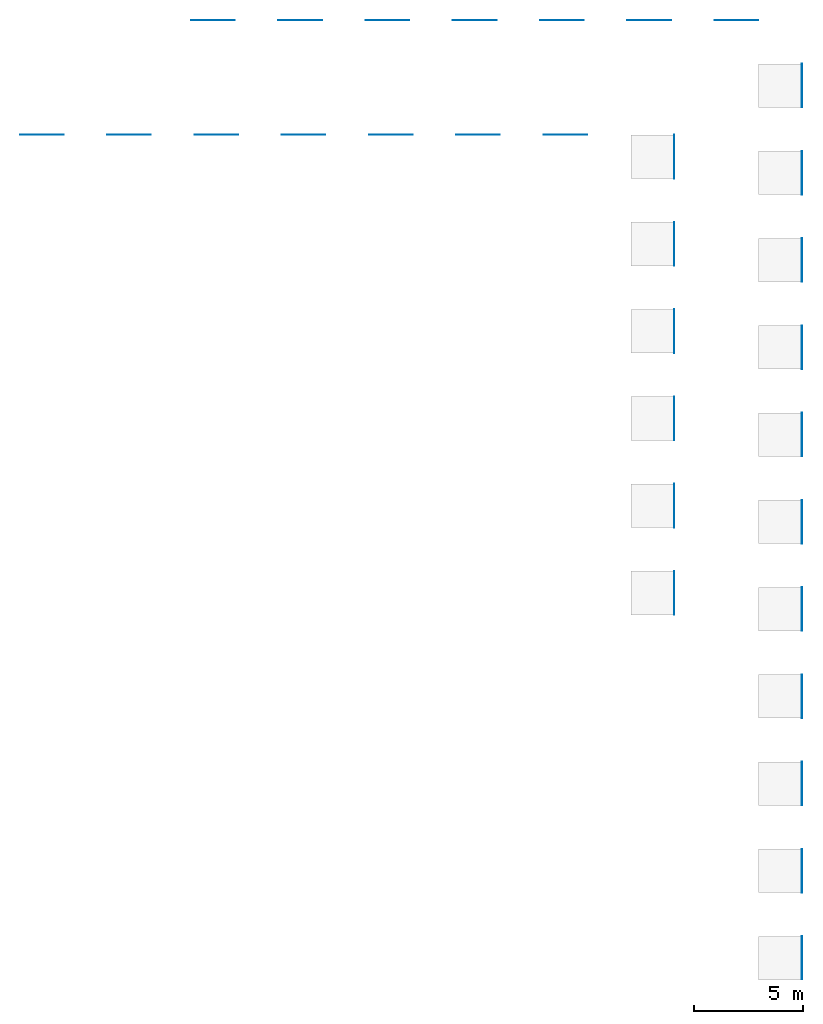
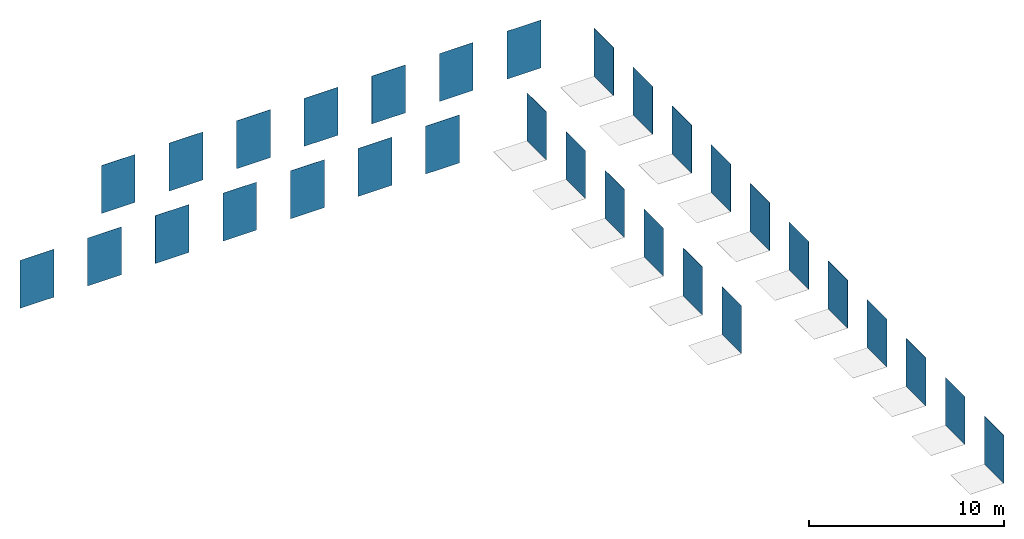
# One storey, part 1 of 2: 31 walls.
"""IFC2X3 building model written with IfcOpenShell, lengths in millimetres."""

from ifc_helpers import new_model, entity, si_unit, converted_unit, derived_unit, direction, frame, frame_2d, origin, place, context, subcontext, project, spatial, rectangle, extrude, material, layer, layer_set, layer_usage, type_object, element, save


model = new_model("IFC2X3")

# Units and contexts
model_context = context("Model", 3, precision=0.01, world=origin(), true_north=direction((6.12303176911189e-17, 1.0)))
body_context = subcontext(model_context, "Body", "Model", "MODEL_VIEW")
ifc_project = project(units=[si_unit("LENGTHUNIT", "METRE", prefix="MILLI"), si_unit("AREAUNIT", "SQUARE_METRE"), si_unit("VOLUMEUNIT", "CUBIC_METRE"), converted_unit("PLANEANGLEUNIT", "DEGREE", entity("IfcRatioMeasure", 0.0174532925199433), si_unit("PLANEANGLEUNIT", "RADIAN"), dimensions=[0, 0, 0, 0, 0, 0, 0]), si_unit("MASSUNIT", "GRAM", prefix="KILO"), derived_unit("MASSDENSITYUNIT", [(si_unit("MASSUNIT", "GRAM", prefix="KILO"), 1), (si_unit("LENGTHUNIT", "METRE"), -3)]), si_unit("TIMEUNIT", "SECOND"), si_unit("FREQUENCYUNIT", "HERTZ"), si_unit("THERMODYNAMICTEMPERATUREUNIT", "DEGREE_CELSIUS"), derived_unit("THERMALTRANSMITTANCEUNIT", [(si_unit("MASSUNIT", "GRAM", prefix="KILO"), 1), (si_unit("THERMODYNAMICTEMPERATUREUNIT", "KELVIN"), -1), (si_unit("TIMEUNIT", "SECOND"), -3)]), derived_unit("VOLUMETRICFLOWRATEUNIT", [(si_unit("LENGTHUNIT", "METRE"), 3), (si_unit("TIMEUNIT", "SECOND"), -1)]), si_unit("ELECTRICCURRENTUNIT", "AMPERE"), si_unit("ELECTRICVOLTAGEUNIT", "VOLT"), si_unit("POWERUNIT", "WATT"), si_unit("FORCEUNIT", "NEWTON", prefix="KILO"), si_unit("ILLUMINANCEUNIT", "LUX"), si_unit("LUMINOUSFLUXUNIT", "LUMEN"), si_unit("LUMINOUSINTENSITYUNIT", "CANDELA"), derived_unit("USERDEFINED", [(si_unit("MASSUNIT", "GRAM", prefix="KILO"), -1), (si_unit("LENGTHUNIT", "METRE"), -2), (si_unit("TIMEUNIT", "SECOND"), 3), (si_unit("LUMINOUSFLUXUNIT", "LUMEN"), 1)]), derived_unit("LINEARVELOCITYUNIT", [(si_unit("LENGTHUNIT", "METRE"), 1), (si_unit("TIMEUNIT", "SECOND"), -1)]), si_unit("PRESSUREUNIT", "PASCAL"), derived_unit("USERDEFINED", [(si_unit("LENGTHUNIT", "METRE"), -2), (si_unit("MASSUNIT", "GRAM", prefix="KILO"), 1), (si_unit("TIMEUNIT", "SECOND"), -2)])], contexts=[model_context])

# Site, building, storey
site_placement = place(None, origin())
site = spatial("IfcSite", under=ifc_project, at=site_placement, Name="Default", CompositionType="ELEMENT")
building_placement = place(site_placement, origin())
building = spatial("IfcBuilding", under=site, at=building_placement, CompositionType="ELEMENT")
storey_placement = place(building_placement, origin())
storey = spatial("IfcBuildingStorey", under=building, at=storey_placement, Name="Level 1", CompositionType="ELEMENT", Elevation=0.0)

# Walls
ifc_material_1 = material(Name="PGR_Porcelanosa_CeramicTiles_Bottega_Acero-1200x1200mm-100227107")
ifc_layer_1 = layer(ifc_material_1, 12.0)
ifc_layer_set_1 = layer_set([ifc_layer_1], Name="Basic Wall:PGR_Porcelanosa_CeramicTiles_Bottega_Acero-1200x1200mm-100227107")
ifc_layer_usage_1 = layer_usage(ifc_layer_set_1, "AXIS2", "POSITIVE", -6.0)
wall_type_1 = type_object("IfcWallType", Name="Basic Wall:PGR_Porcelanosa_CeramicTiles_Bottega_Acero-1200x1200mm-100227107", PredefinedType="STANDARD", material=ifc_layer_set_1)
wall_1_placement = place(storey_placement, frame((3521.07742659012, 33498.0173252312, 0.0), z_axis=(0.0, 0.0, 1.0), x_axis=(0.0, -1.0, 0.0)))
element("IfcWallStandardCase", 1, at=wall_1_placement, inside=storey, type_object=wall_type_1, material=ifc_layer_usage_1, Name="Basic Wall:PGR_Porcelanosa_CeramicTiles_Bottega_Acero-1200x1200mm-100227107", ObjectType="Basic Wall:PGR_Porcelanosa_CeramicTiles_Bottega_Acero-1200x1200mm-100227107", context=body_context, shape_type="SweptSolid", body=[
    extrude(rectangle(XDim=2000.0, YDim=12.0000000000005, at=frame_2d((1000.0, 7.54951656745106e-15), x_axis=(-1.0, 0.0))), origin(), (0.0, 0.0, 1.0), 3000.00000000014),
])
ifc_material_2 = material(Name="PGR_Porcelanosa_CeramicTiles_Bottega_Acero-596x596mm-100214641")
ifc_layer_2 = layer(ifc_material_2, 10.3)
ifc_layer_set_2 = layer_set([ifc_layer_2], Name="Basic Wall:PGR_Porcelanosa_CeramicTiles_Bottega_Acero-596x596mm-100214641")
ifc_layer_usage_2 = layer_usage(ifc_layer_set_2, "AXIS2", "POSITIVE", -5.15)
wall_type_2 = type_object("IfcWallType", Name="Basic Wall:PGR_Porcelanosa_CeramicTiles_Bottega_Acero-596x596mm-100214641", PredefinedType="STANDARD", material=ifc_layer_set_2)
wall_2_placement = place(storey_placement, frame((3521.92742659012, 37498.0173252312, 0.0), z_axis=(0.0, 0.0, 1.0), x_axis=(0.0, -1.0, 0.0)))
element("IfcWallStandardCase", 2, at=wall_2_placement, inside=storey, type_object=wall_type_2, material=ifc_layer_usage_2, Name="Basic Wall:PGR_Porcelanosa_CeramicTiles_Bottega_Acero-596x596mm-100214641", ObjectType="Basic Wall:PGR_Porcelanosa_CeramicTiles_Bottega_Acero-596x596mm-100214641", context=body_context, shape_type="SweptSolid", body=[
    extrude(rectangle(XDim=2000.0, YDim=10.2999999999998, at=frame_2d((1000.0, 7.105427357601e-15), x_axis=(-1.0, 0.0))), origin(), (0.0, 0.0, 1.0), 3000.00000000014),
])
ifc_material_3 = material(Name="PGR_Porcelanosa_CeramicTiles_Bottega_Acero-800x800mm-100214633")
ifc_layer_3 = layer(ifc_material_3, 11.2)
ifc_layer_set_3 = layer_set([ifc_layer_3], Name="Basic Wall:PGR_Porcelanosa_CeramicTiles_Bottega_Acero-800x800mm-100214633")
ifc_layer_usage_3 = layer_usage(ifc_layer_set_3, "AXIS2", "POSITIVE", -5.6)
wall_type_3 = type_object("IfcWallType", Name="Basic Wall:PGR_Porcelanosa_CeramicTiles_Bottega_Acero-800x800mm-100214633", PredefinedType="STANDARD", material=ifc_layer_set_3)
wall_3_placement = place(storey_placement, frame((3521.47742659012, 41498.0173252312, 0.0), z_axis=(0.0, 0.0, 1.0), x_axis=(0.0, -1.0, 0.0)))
element("IfcWallStandardCase", 3, at=wall_3_placement, inside=storey, type_object=wall_type_3, material=ifc_layer_usage_3, Name="Basic Wall:PGR_Porcelanosa_CeramicTiles_Bottega_Acero-800x800mm-100214633", ObjectType="Basic Wall:PGR_Porcelanosa_CeramicTiles_Bottega_Acero-800x800mm-100214633", context=body_context, shape_type="SweptSolid", body=[
    extrude(rectangle(XDim=2000.0, YDim=11.1999999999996, at=frame_2d((1000.0, 7.54951656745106e-15), x_axis=(-1.0, 0.0))), origin(), (0.0, 0.0, 1.0), 3000.00000000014),
])
ifc_material_4 = material(Name="PGR_Porcelanosa_CeramicTiles_Bottega_Acero_Ant.-596x596mm-100221464")
ifc_layer_4 = layer(ifc_material_4, 10.3)
ifc_layer_set_4 = layer_set([ifc_layer_4], Name="Basic Wall:PGR_Porcelanosa_CeramicTiles_Bottega_Acero_Ant.-596x596mm-100221464")
ifc_layer_usage_4 = layer_usage(ifc_layer_set_4, "AXIS2", "POSITIVE", -5.15)
wall_type_4 = type_object("IfcWallType", Name="Basic Wall:PGR_Porcelanosa_CeramicTiles_Bottega_Acero_Ant.-596x596mm-100221464", PredefinedType="STANDARD", material=ifc_layer_set_4)
wall_4_placement = place(storey_placement, frame((3521.92742659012, 45498.0173252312, 0.0), z_axis=(0.0, 0.0, 1.0), x_axis=(0.0, -1.0, 0.0)))
element("IfcWallStandardCase", 4, at=wall_4_placement, inside=storey, type_object=wall_type_4, material=ifc_layer_usage_4, Name="Basic Wall:PGR_Porcelanosa_CeramicTiles_Bottega_Acero_Ant.-596x596mm-100221464", ObjectType="Basic Wall:PGR_Porcelanosa_CeramicTiles_Bottega_Acero_Ant.-596x596mm-100221464", context=body_context, shape_type="SweptSolid", body=[
    extrude(rectangle(XDim=2000.0, YDim=10.2999999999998, at=frame_2d((1000.0, 7.105427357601e-15), x_axis=(-1.0, 0.0))), origin(), (0.0, 0.0, 1.0), 3000.00000000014),
])
ifc_material_5 = material(Name="PGR_Porcelanosa_CeramicTiles_Bottega_Acero_Ant.-800x800mm-100221486")
ifc_layer_5 = layer(ifc_material_5, 11.2)
ifc_layer_set_5 = layer_set([ifc_layer_5], Name="Basic Wall:PGR_Porcelanosa_CeramicTiles_Bottega_Acero_Ant.-800x800mm-100221486")
ifc_layer_usage_5 = layer_usage(ifc_layer_set_5, "AXIS2", "POSITIVE", -5.6)
wall_type_5 = type_object("IfcWallType", Name="Basic Wall:PGR_Porcelanosa_CeramicTiles_Bottega_Acero_Ant.-800x800mm-100221486", PredefinedType="STANDARD", material=ifc_layer_set_5)
wall_5_placement = place(storey_placement, frame((3521.47742659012, 49498.0173252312, 0.0), z_axis=(0.0, 0.0, 1.0), x_axis=(0.0, -1.0, 0.0)))
element("IfcWallStandardCase", 5, at=wall_5_placement, inside=storey, type_object=wall_type_5, material=ifc_layer_usage_5, Name="Basic Wall:PGR_Porcelanosa_CeramicTiles_Bottega_Acero_Ant.-800x800mm-100221486", ObjectType="Basic Wall:PGR_Porcelanosa_CeramicTiles_Bottega_Acero_Ant.-800x800mm-100221486", context=body_context, shape_type="SweptSolid", body=[
    extrude(rectangle(XDim=2000.0, YDim=11.1999999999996, at=frame_2d((1000.0, 7.54951656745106e-15), x_axis=(-1.0, 0.0))), origin(), (0.0, 0.0, 1.0), 3000.00000000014),
])
ifc_material_6 = material(Name="PGR_Porcelanosa_CeramicTiles_Bottega_Caliza-1200x1200mm-100214898")
ifc_layer_6 = layer(ifc_material_6, 12.0)
ifc_layer_set_6 = layer_set([ifc_layer_6], Name="Basic Wall:PGR_Porcelanosa_CeramicTiles_Bottega_Caliza-1200x1200mm-100214898")
ifc_layer_usage_6 = layer_usage(ifc_layer_set_6, "AXIS2", "POSITIVE", -6.0)
wall_type_6 = type_object("IfcWallType", Name="Basic Wall:PGR_Porcelanosa_CeramicTiles_Bottega_Caliza-1200x1200mm-100214898", PredefinedType="STANDARD", material=ifc_layer_set_6)
wall_6_placement = place(storey_placement, frame((-2335.87595518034, 50240.7986779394, 0.0), z_axis=(0.0, 0.0, 1.0), x_axis=(0.0, -1.0, 0.0)))
element("IfcWallStandardCase", 6, at=wall_6_placement, inside=storey, type_object=wall_type_6, material=ifc_layer_usage_6, Name="Basic Wall:PGR_Porcelanosa_CeramicTiles_Bottega_Caliza-1200x1200mm-100214898", ObjectType="Basic Wall:PGR_Porcelanosa_CeramicTiles_Bottega_Caliza-1200x1200mm-100214898", context=body_context, shape_type="SweptSolid", body=[
    extrude(rectangle(XDim=2000.0, YDim=12.0, at=frame_2d((1000.0, 7.54951656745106e-15), x_axis=(-1.0, 0.0))), origin(), (0.0, 0.0, 1.0), 3000.00000000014),
])
ifc_material_7 = material(Name="PGR_Porcelanosa_CeramicTiles_Bottega_Caliza-596x596mm-100214648")
ifc_layer_7 = layer(ifc_material_7, 10.3)
ifc_layer_set_7 = layer_set([ifc_layer_7], Name="Basic Wall:PGR_Porcelanosa_CeramicTiles_Bottega_Caliza-596x596mm-100214648")
ifc_layer_usage_7 = layer_usage(ifc_layer_set_7, "AXIS2", "POSITIVE", -5.15)
wall_type_7 = type_object("IfcWallType", Name="Basic Wall:PGR_Porcelanosa_CeramicTiles_Bottega_Caliza-596x596mm-100214648", PredefinedType="STANDARD", material=ifc_layer_set_7)
wall_7_placement = place(storey_placement, frame((-2335.02595518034, 54240.7986779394, 0.0), z_axis=(0.0, 0.0, 1.0), x_axis=(0.0, -1.0, 0.0)))
element("IfcWallStandardCase", 7, at=wall_7_placement, inside=storey, type_object=wall_type_7, material=ifc_layer_usage_7, Name="Basic Wall:PGR_Porcelanosa_CeramicTiles_Bottega_Caliza-596x596mm-100214648", ObjectType="Basic Wall:PGR_Porcelanosa_CeramicTiles_Bottega_Caliza-596x596mm-100214648", context=body_context, shape_type="SweptSolid", body=[
    extrude(rectangle(XDim=2000.0, YDim=10.2999999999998, at=frame_2d((1000.0, 7.105427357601e-15), x_axis=(-1.0, 0.0))), origin(), (0.0, 0.0, 1.0), 3000.00000000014),
])
ifc_material_8 = material(Name="PGR_Porcelanosa_CeramicTiles_Bottega_Caliza-800x800mm-100214608")
ifc_layer_8 = layer(ifc_material_8, 11.2)
ifc_layer_set_8 = layer_set([ifc_layer_8], Name="Basic Wall:PGR_Porcelanosa_CeramicTiles_Bottega_Caliza-800x800mm-100214608")
ifc_layer_usage_8 = layer_usage(ifc_layer_set_8, "AXIS2", "POSITIVE", -5.6)
wall_type_8 = type_object("IfcWallType", Name="Basic Wall:PGR_Porcelanosa_CeramicTiles_Bottega_Caliza-800x800mm-100214608", PredefinedType="STANDARD", material=ifc_layer_set_8)
wall_8_placement = place(storey_placement, frame((-2335.47595518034, 58240.7986779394, 0.0), z_axis=(0.0, 0.0, 1.0), x_axis=(0.0, -1.0, 0.0)))
element("IfcWallStandardCase", 8, at=wall_8_placement, inside=storey, type_object=wall_type_8, material=ifc_layer_usage_8, Name="Basic Wall:PGR_Porcelanosa_CeramicTiles_Bottega_Caliza-800x800mm-100214608", ObjectType="Basic Wall:PGR_Porcelanosa_CeramicTiles_Bottega_Caliza-800x800mm-100214608", context=body_context, shape_type="SweptSolid", body=[
    extrude(rectangle(XDim=2000.0, YDim=11.2000000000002, at=frame_2d((1000.0, 7.54951656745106e-15), x_axis=(-1.0, 0.0))), origin(), (0.0, 0.0, 1.0), 3000.00000000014),
])
ifc_material_9 = material(Name="PGR_Porcelanosa_CeramicTiles_Bottega_Caliza_Ant.-596x596mm-100221473")
ifc_layer_9 = layer(ifc_material_9, 10.3)
ifc_layer_set_9 = layer_set([ifc_layer_9], Name="Basic Wall:PGR_Porcelanosa_CeramicTiles_Bottega_Caliza_Ant.-596x596mm-100221473")
ifc_layer_usage_9 = layer_usage(ifc_layer_set_9, "AXIS2", "POSITIVE", -5.15)
wall_type_9 = type_object("IfcWallType", Name="Basic Wall:PGR_Porcelanosa_CeramicTiles_Bottega_Caliza_Ant.-596x596mm-100221473", PredefinedType="STANDARD", material=ifc_layer_set_9)
wall_9_placement = place(storey_placement, frame((-2335.02595518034, 62240.7986779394, 0.0), z_axis=(0.0, 0.0, 1.0), x_axis=(0.0, -1.0, 0.0)))
element("IfcWallStandardCase", 9, at=wall_9_placement, inside=storey, type_object=wall_type_9, material=ifc_layer_usage_9, Name="Basic Wall:PGR_Porcelanosa_CeramicTiles_Bottega_Caliza_Ant.-596x596mm-100221473", ObjectType="Basic Wall:PGR_Porcelanosa_CeramicTiles_Bottega_Caliza_Ant.-596x596mm-100221473", context=body_context, shape_type="SweptSolid", body=[
    extrude(rectangle(XDim=2000.0, YDim=10.2999999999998, at=frame_2d((1000.0, 7.105427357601e-15), x_axis=(-1.0, 0.0))), origin(), (0.0, 0.0, 1.0), 3000.00000000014),
])
ifc_material_10 = material(Name="PGR_Porcelanosa_CeramicTiles_Bottega_Caliza_Ant.-800x800mm-100221502")
ifc_layer_10 = layer(ifc_material_10, 11.2)
ifc_layer_set_10 = layer_set([ifc_layer_10], Name="Basic Wall:PGR_Porcelanosa_CeramicTiles_Bottega_Caliza_Ant.-800x800mm-100221502")
ifc_layer_usage_10 = layer_usage(ifc_layer_set_10, "AXIS2", "POSITIVE", -5.6)
wall_type_10 = type_object("IfcWallType", Name="Basic Wall:PGR_Porcelanosa_CeramicTiles_Bottega_Caliza_Ant.-800x800mm-100221502", PredefinedType="STANDARD", material=ifc_layer_set_10)
wall_10_placement = place(storey_placement, frame((-2335.47595518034, 66240.7986779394, 0.0), z_axis=(0.0, 0.0, 1.0), x_axis=(0.0, -1.0, 0.0)))
element("IfcWallStandardCase", 10, at=wall_10_placement, inside=storey, type_object=wall_type_10, material=ifc_layer_usage_10, Name="Basic Wall:PGR_Porcelanosa_CeramicTiles_Bottega_Caliza_Ant.-800x800mm-100221502", ObjectType="Basic Wall:PGR_Porcelanosa_CeramicTiles_Bottega_Caliza_Ant.-800x800mm-100221502", context=body_context, shape_type="SweptSolid", body=[
    extrude(rectangle(XDim=2000.0, YDim=11.2000000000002, at=frame_2d((1000.0, 7.54951656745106e-15), x_axis=(-1.0, 0.0))), origin(), (0.0, 0.0, 1.0), 3000.00000000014),
])
ifc_material_11 = material(Name="PGR_Porcelanosa_CeramicTiles_Bottega_Acero-443x443mm-100225055")
ifc_layer_11 = layer(ifc_material_11, 10.3)
ifc_layer_set_11 = layer_set([ifc_layer_11], Name="Basic Wall:PGR_Porcelanosa_CeramicTiles_Bottega_Acero-443x443mm-100225055")
ifc_layer_usage_11 = layer_usage(ifc_layer_set_11, "AXIS2", "POSITIVE", -5.15)
wall_type_11 = type_object("IfcWallType", Name="Basic Wall:PGR_Porcelanosa_CeramicTiles_Bottega_Acero-443x443mm-100225055", PredefinedType="STANDARD", material=ifc_layer_set_11)
wall_11_placement = place(storey_placement, frame((3521.92742659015, 53498.0173252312, 0.0), z_axis=(0.0, 0.0, 1.0), x_axis=(0.0, -1.0, 0.0)))
element("IfcWallStandardCase", 11, at=wall_11_placement, inside=storey, type_object=wall_type_11, material=ifc_layer_usage_11, Name="Basic Wall:PGR_Porcelanosa_CeramicTiles_Bottega_Acero-443x443mm-100225055", ObjectType="Basic Wall:PGR_Porcelanosa_CeramicTiles_Bottega_Acero-443x443mm-100225055", context=body_context, shape_type="SweptSolid", body=[
    extrude(rectangle(XDim=2000.0, YDim=10.2999999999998, at=frame_2d((1000.0, 7.105427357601e-15), x_axis=(-1.0, 0.0))), origin(), (0.0, 0.0, 1.0), 3000.00000000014),
])
ifc_material_12 = material(Name="PGR_Porcelanosa_CeramicTiles_Bottega_Caliza-443x443mm-100225065")
ifc_layer_12 = layer(ifc_material_12, 11.2)
ifc_layer_set_12 = layer_set([ifc_layer_12], Name="Basic Wall:PGR_Porcelanosa_CeramicTiles_Bottega_Caliza-443x443mm-100225065")
ifc_layer_usage_12 = layer_usage(ifc_layer_set_12, "AXIS2", "POSITIVE", -5.6)
wall_type_12 = type_object("IfcWallType", Name="Basic Wall:PGR_Porcelanosa_CeramicTiles_Bottega_Caliza-443x443mm-100225065", PredefinedType="STANDARD", material=ifc_layer_set_12)
wall_12_placement = place(storey_placement, frame((-2335.47595518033, 70240.7986779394, 0.0), z_axis=(0.0, 0.0, 1.0), x_axis=(0.0, -1.0, 0.0)))
element("IfcWallStandardCase", 12, at=wall_12_placement, inside=storey, type_object=wall_type_12, material=ifc_layer_usage_12, Name="Basic Wall:PGR_Porcelanosa_CeramicTiles_Bottega_Caliza-443x443mm-100225065", ObjectType="Basic Wall:PGR_Porcelanosa_CeramicTiles_Bottega_Caliza-443x443mm-100225065", context=body_context, shape_type="SweptSolid", body=[
    extrude(rectangle(XDim=2000.0, YDim=11.2000000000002, at=frame_2d((1000.0, 7.54951656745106e-15), x_axis=(-1.0, 0.0))), origin(), (0.0, 0.0, 1.0), 3000.00000000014),
])
ifc_material_13 = material(Name="PGR_Porcelanosa_CeramicTiles_Bottega_Topo-1200x1200mm-100227119")
ifc_layer_13 = layer(ifc_material_13, 12.0)
ifc_layer_set_13 = layer_set([ifc_layer_13], Name="Basic Wall:PGR_Porcelanosa_CeramicTiles_Bottega_Topo-1200x1200mm-100227119")
ifc_layer_usage_13 = layer_usage(ifc_layer_set_13, "AXIS2", "POSITIVE", -6.0)
wall_type_13 = type_object("IfcWallType", Name="Basic Wall:PGR_Porcelanosa_CeramicTiles_Bottega_Topo-1200x1200mm-100227119", PredefinedType="STANDARD", material=ifc_layer_set_13)
wall_13_placement = place(storey_placement, frame((3521.07742659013, 57498.0173252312, 0.0), z_axis=(0.0, 0.0, 1.0), x_axis=(0.0, -1.0, 0.0)))
element("IfcWallStandardCase", 13, at=wall_13_placement, inside=storey, type_object=wall_type_13, material=ifc_layer_usage_13, Name="Basic Wall:PGR_Porcelanosa_CeramicTiles_Bottega_Topo-1200x1200mm-100227119", ObjectType="Basic Wall:PGR_Porcelanosa_CeramicTiles_Bottega_Topo-1200x1200mm-100227119", context=body_context, shape_type="SweptSolid", body=[
    extrude(rectangle(XDim=2000.0, YDim=12.0000000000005, at=frame_2d((1000.0, 7.54951656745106e-15), x_axis=(-1.0, 0.0))), origin(), (0.0, 0.0, 1.0), 3000.00000000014),
])
ifc_material_14 = material(Name="PGR_Porcelanosa_CeramicTiles_Bottega_Topo-596x596mm-100214662")
ifc_layer_14 = layer(ifc_material_14, 10.3)
ifc_layer_set_14 = layer_set([ifc_layer_14], Name="Basic Wall:PGR_Porcelanosa_CeramicTiles_Bottega_Topo-596x596mm-100214662")
ifc_layer_usage_14 = layer_usage(ifc_layer_set_14, "AXIS2", "POSITIVE", -5.15)
wall_type_14 = type_object("IfcWallType", Name="Basic Wall:PGR_Porcelanosa_CeramicTiles_Bottega_Topo-596x596mm-100214662", PredefinedType="STANDARD", material=ifc_layer_set_14)
wall_14_placement = place(storey_placement, frame((3521.92742659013, 61498.0173252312, 0.0), z_axis=(0.0, 0.0, 1.0), x_axis=(0.0, -1.0, 0.0)))
element("IfcWallStandardCase", 14, at=wall_14_placement, inside=storey, type_object=wall_type_14, material=ifc_layer_usage_14, Name="Basic Wall:PGR_Porcelanosa_CeramicTiles_Bottega_Topo-596x596mm-100214662", ObjectType="Basic Wall:PGR_Porcelanosa_CeramicTiles_Bottega_Topo-596x596mm-100214662", context=body_context, shape_type="SweptSolid", body=[
    extrude(rectangle(XDim=2000.0, YDim=10.2999999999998, at=frame_2d((1000.0, 7.105427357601e-15), x_axis=(-1.0, 0.0))), origin(), (0.0, 0.0, 1.0), 3000.00000000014),
])
ifc_material_15 = material(Name="PGR_Porcelanosa_CeramicTiles_Bottega_Topo-800x800mm-100214622")
ifc_layer_15 = layer(ifc_material_15, 11.2)
ifc_layer_set_15 = layer_set([ifc_layer_15], Name="Basic Wall:PGR_Porcelanosa_CeramicTiles_Bottega_Topo-800x800mm-100214622")
ifc_layer_usage_15 = layer_usage(ifc_layer_set_15, "AXIS2", "POSITIVE", -5.6)
wall_type_15 = type_object("IfcWallType", Name="Basic Wall:PGR_Porcelanosa_CeramicTiles_Bottega_Topo-800x800mm-100214622", PredefinedType="STANDARD", material=ifc_layer_set_15)
wall_15_placement = place(storey_placement, frame((3521.47742659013, 65498.0173252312, 0.0), z_axis=(0.0, 0.0, 1.0), x_axis=(0.0, -1.0, 0.0)))
element("IfcWallStandardCase", 15, at=wall_15_placement, inside=storey, type_object=wall_type_15, material=ifc_layer_usage_15, Name="Basic Wall:PGR_Porcelanosa_CeramicTiles_Bottega_Topo-800x800mm-100214622", ObjectType="Basic Wall:PGR_Porcelanosa_CeramicTiles_Bottega_Topo-800x800mm-100214622", context=body_context, shape_type="SweptSolid", body=[
    extrude(rectangle(XDim=2000.0, YDim=11.1999999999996, at=frame_2d((1000.0, 7.54951656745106e-15), x_axis=(-1.0, 0.0))), origin(), (0.0, 0.0, 1.0), 3000.00000000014),
])
ifc_material_16 = material(Name="PGR_Porcelanosa_CeramicTiles_Bottega_Topo_Ant.-596x596mm-100221449")
ifc_layer_16 = layer(ifc_material_16, 10.3)
ifc_layer_set_16 = layer_set([ifc_layer_16], Name="Basic Wall:PGR_Porcelanosa_CeramicTiles_Bottega_Topo_Ant.-596x596mm-100221449")
ifc_layer_usage_16 = layer_usage(ifc_layer_set_16, "AXIS2", "POSITIVE", -5.15)
wall_type_16 = type_object("IfcWallType", Name="Basic Wall:PGR_Porcelanosa_CeramicTiles_Bottega_Topo_Ant.-596x596mm-100221449", PredefinedType="STANDARD", material=ifc_layer_set_16)
wall_16_placement = place(storey_placement, frame((3521.92742659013, 69498.0173252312, 0.0), z_axis=(0.0, 0.0, 1.0), x_axis=(0.0, -1.0, 0.0)))
element("IfcWallStandardCase", 16, at=wall_16_placement, inside=storey, type_object=wall_type_16, material=ifc_layer_usage_16, Name="Basic Wall:PGR_Porcelanosa_CeramicTiles_Bottega_Topo_Ant.-596x596mm-100221449", ObjectType="Basic Wall:PGR_Porcelanosa_CeramicTiles_Bottega_Topo_Ant.-596x596mm-100221449", context=body_context, shape_type="SweptSolid", body=[
    extrude(rectangle(XDim=2000.0, YDim=10.2999999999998, at=frame_2d((1000.0, 7.105427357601e-15), x_axis=(-1.0, 0.0))), origin(), (0.0, 0.0, 1.0), 3000.00000000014),
])
ifc_material_17 = material(Name="PGR_Porcelanosa_CeramicTiles_Bottega_Topo_Ant.-800x800mm-100221465")
ifc_layer_17 = layer(ifc_material_17, 11.2)
ifc_layer_set_17 = layer_set([ifc_layer_17], Name="Basic Wall:PGR_Porcelanosa_CeramicTiles_Bottega_Topo_Ant.-800x800mm-100221465")
ifc_layer_usage_17 = layer_usage(ifc_layer_set_17, "AXIS2", "POSITIVE", -5.6)
wall_type_17 = type_object("IfcWallType", Name="Basic Wall:PGR_Porcelanosa_CeramicTiles_Bottega_Topo_Ant.-800x800mm-100221465", PredefinedType="STANDARD", material=ifc_layer_set_17)
wall_17_placement = place(storey_placement, frame((3521.47742659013, 73498.0173252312, 0.0), z_axis=(0.0, 0.0, 1.0), x_axis=(0.0, -1.0, 0.0)))
element("IfcWallStandardCase", 17, at=wall_17_placement, inside=storey, type_object=wall_type_17, material=ifc_layer_usage_17, Name="Basic Wall:PGR_Porcelanosa_CeramicTiles_Bottega_Topo_Ant.-800x800mm-100221465", ObjectType="Basic Wall:PGR_Porcelanosa_CeramicTiles_Bottega_Topo_Ant.-800x800mm-100221465", context=body_context, shape_type="SweptSolid", body=[
    extrude(rectangle(XDim=2000.0, YDim=11.1999999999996, at=frame_2d((1000.0, 7.54951656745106e-15), x_axis=(-1.0, 0.0))), origin(), (0.0, 0.0, 1.0), 3000.00000000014),
])
ifc_material_18 = material(Name="PGR_Porcelanosa_CeramicTiles_Bottega_Acero-316x900mm-100215162")
ifc_layer_18 = layer(ifc_material_18, 9.0)
ifc_layer_set_18 = layer_set([ifc_layer_18], Name="Basic Wall:PGR_Porcelanosa_CeramicTiles_Bottega_Acero-316x900mm-100215162")
ifc_layer_usage_18 = layer_usage(ifc_layer_set_18, "AXIS2", "POSITIVE", -4.5)
wall_type_18 = type_object("IfcWallType", Name="Basic Wall:PGR_Porcelanosa_CeramicTiles_Bottega_Acero-316x900mm-100215162", PredefinedType="STANDARD", material=ifc_layer_set_18)
wall_18_placement = place(storey_placement, frame((-481.922573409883, 75502.5173252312, 0.0)))
element("IfcWallStandardCase", 18, at=wall_18_placement, inside=storey, type_object=wall_type_18, material=ifc_layer_usage_18, Name="Basic Wall:PGR_Porcelanosa_CeramicTiles_Bottega_Acero-316x900mm-100215162", ObjectType="Basic Wall:PGR_Porcelanosa_CeramicTiles_Bottega_Acero-316x900mm-100215162", context=body_context, shape_type="SweptSolid", body=[
    extrude(rectangle(XDim=2000.0, YDim=8.99999999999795, at=frame_2d((1000.0, -1.36024524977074e-12), x_axis=(-1.0, 0.0))), origin(), (0.0, 0.0, 1.0), 3000.00000000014),
])
ifc_material_19 = material(Name="PGR_Porcelanosa_CeramicTiles_Bottega_Acero-450x1200mm-100214606")
ifc_layer_19 = layer(ifc_material_19, 10.1)
ifc_layer_set_19 = layer_set([ifc_layer_19], Name="Basic Wall:PGR_Porcelanosa_CeramicTiles_Bottega_Acero-450x1200mm-100214606")
ifc_layer_usage_19 = layer_usage(ifc_layer_set_19, "AXIS2", "POSITIVE", -5.05)
wall_type_19 = type_object("IfcWallType", Name="Basic Wall:PGR_Porcelanosa_CeramicTiles_Bottega_Acero-450x1200mm-100214606", PredefinedType="STANDARD", material=ifc_layer_set_19)
wall_19_placement = place(storey_placement, frame((-4481.92257340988, 75501.9673252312, 0.0)))
element("IfcWallStandardCase", 19, at=wall_19_placement, inside=storey, type_object=wall_type_19, material=ifc_layer_usage_19, Name="Basic Wall:PGR_Porcelanosa_CeramicTiles_Bottega_Acero-450x1200mm-100214606", ObjectType="Basic Wall:PGR_Porcelanosa_CeramicTiles_Bottega_Acero-450x1200mm-100214606", context=body_context, shape_type="SweptSolid", body=[
    extrude(rectangle(XDim=2000.0, YDim=10.1000000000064, at=frame_2d((1000.0, -1.36024524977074e-12), x_axis=(-1.0, 0.0))), origin(), (0.0, 0.0, 1.0), 3000.00000000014),
])
ifc_material_20 = material(Name="PGR_Porcelanosa_CeramicTiles_Bottega_Caliza-316x900mm-100215126")
ifc_layer_20 = layer(ifc_material_20, 9.0)
ifc_layer_set_20 = layer_set([ifc_layer_20], Name="Basic Wall:PGR_Porcelanosa_CeramicTiles_Bottega_Caliza-316x900mm-100215126")
ifc_layer_usage_20 = layer_usage(ifc_layer_set_20, "AXIS2", "POSITIVE", -4.5)
wall_type_20 = type_object("IfcWallType", Name="Basic Wall:PGR_Porcelanosa_CeramicTiles_Bottega_Caliza-316x900mm-100215126", PredefinedType="STANDARD", material=ifc_layer_set_20)
wall_20_placement = place(storey_placement, frame((-8329.87595518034, 70245.2986779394, 0.0)))
element("IfcWallStandardCase", 20, at=wall_20_placement, inside=storey, type_object=wall_type_20, material=ifc_layer_usage_20, Name="Basic Wall:PGR_Porcelanosa_CeramicTiles_Bottega_Caliza-316x900mm-100215126", ObjectType="Basic Wall:PGR_Porcelanosa_CeramicTiles_Bottega_Caliza-316x900mm-100215126", context=body_context, shape_type="SweptSolid", body=[
    extrude(rectangle(XDim=2000.0, YDim=8.99999999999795, at=frame_2d((1000.0, -1.36024524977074e-12), x_axis=(-1.0, 0.0))), origin(), (0.0, 0.0, 1.0), 3000.00000000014),
])
ifc_material_21 = material(Name="PGR_Porcelanosa_CeramicTiles_Bottega_Caliza-450x1200mm-100214661")
ifc_layer_21 = layer(ifc_material_21, 10.1)
ifc_layer_set_21 = layer_set([ifc_layer_21], Name="Basic Wall:PGR_Porcelanosa_CeramicTiles_Bottega_Caliza-450x1200mm-100214661")
ifc_layer_usage_21 = layer_usage(ifc_layer_set_21, "AXIS2", "POSITIVE", -5.05)
wall_type_21 = type_object("IfcWallType", Name="Basic Wall:PGR_Porcelanosa_CeramicTiles_Bottega_Caliza-450x1200mm-100214661", PredefinedType="STANDARD", material=ifc_layer_set_21)
wall_21_placement = place(storey_placement, frame((-12329.8759551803, 70245.8486779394, 0.0)))
element("IfcWallStandardCase", 21, at=wall_21_placement, inside=storey, type_object=wall_type_21, material=ifc_layer_usage_21, Name="Basic Wall:PGR_Porcelanosa_CeramicTiles_Bottega_Caliza-450x1200mm-100214661", ObjectType="Basic Wall:PGR_Porcelanosa_CeramicTiles_Bottega_Caliza-450x1200mm-100214661", context=body_context, shape_type="SweptSolid", body=[
    extrude(rectangle(XDim=2000.0, YDim=10.1000000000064, at=frame_2d((1000.0, -1.36024524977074e-12), x_axis=(-1.0, 0.0))), origin(), (0.0, 0.0, 1.0), 3000.00000000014),
])
ifc_material_22 = material(Name="PGR_Porcelanosa_CeramicTiles_Line_Pekin_Bottega_Acero-450x1200mm-100226494")
ifc_layer_22 = layer(ifc_material_22, 10.4)
ifc_layer_set_22 = layer_set([ifc_layer_22], Name="Basic Wall:PGR_Porcelanosa_CeramicTiles_Line_Pekin_Bottega_Acero-450x1200mm-100226494")
ifc_layer_usage_22 = layer_usage(ifc_layer_set_22, "AXIS2", "POSITIVE", -5.2)
wall_type_22 = type_object("IfcWallType", Name="Basic Wall:PGR_Porcelanosa_CeramicTiles_Line_Pekin_Bottega_Acero-450x1200mm-100226494", PredefinedType="STANDARD", material=ifc_layer_set_22)
wall_22_placement = place(storey_placement, frame((-8481.92257340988, 75501.8173252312, 0.0)))
element("IfcWallStandardCase", 22, at=wall_22_placement, inside=storey, type_object=wall_type_22, material=ifc_layer_usage_22, Name="Basic Wall:PGR_Porcelanosa_CeramicTiles_Line_Pekin_Bottega_Acero-450x1200mm-100226494", ObjectType="Basic Wall:PGR_Porcelanosa_CeramicTiles_Line_Pekin_Bottega_Acero-450x1200mm-100226494", context=body_context, shape_type="SweptSolid", body=[
    extrude(rectangle(XDim=2000.0, YDim=10.3999999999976, at=frame_2d((1000.0, -1.36068933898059e-12), x_axis=(-1.0, 0.0))), origin(), (0.0, 0.0, 1.0), 3000.00000000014),
])
ifc_material_23 = material(Name="PGR_Porcelanosa_CeramicTiles_Line_Pekin_Bottega_Caliza-450X1200mm-100226503")
ifc_layer_23 = layer(ifc_material_23, 10.4)
ifc_layer_set_23 = layer_set([ifc_layer_23], Name="Basic Wall:PGR_Porcelanosa_CeramicTiles_Line_Pekin_Bottega_Caliza-450x1200mm-100226503")
ifc_layer_usage_23 = layer_usage(ifc_layer_set_23, "AXIS2", "POSITIVE", -5.2)
wall_type_23 = type_object("IfcWallType", Name="Basic Wall:PGR_Porcelanosa_CeramicTiles_Line_Pekin_Bottega_Caliza-450x1200mm-100226503", PredefinedType="STANDARD", material=ifc_layer_set_23)
wall_23_placement = place(storey_placement, frame((-16329.8759551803, 70245.9986779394, 0.0)))
element("IfcWallStandardCase", 23, at=wall_23_placement, inside=storey, type_object=wall_type_23, material=ifc_layer_usage_23, Name="Basic Wall:PGR_Porcelanosa_CeramicTiles_Line_Pekin_Bottega_Caliza-450x1200mm-100226503", ObjectType="Basic Wall:PGR_Porcelanosa_CeramicTiles_Line_Pekin_Bottega_Caliza-450x1200mm-100226503", context=body_context, shape_type="SweptSolid", body=[
    extrude(rectangle(XDim=2000.0, YDim=10.3999999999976, at=frame_2d((1000.0, -1.36068933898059e-12), x_axis=(-1.0, 0.0))), origin(), (0.0, 0.0, 1.0), 3000.00000000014),
])
ifc_material_24 = material(Name="PGR_Porcelanosa_CeramicTiles_Spiga_Bottega_Acero-450x1200mm-100214812")
ifc_layer_24 = layer(ifc_material_24, 10.1)
ifc_layer_set_24 = layer_set([ifc_layer_24], Name="Basic Wall:PGR_Porcelanosa_CeramicTiles_Spiga_Bottega_Acero-450x1200mm-100214812")
ifc_layer_usage_24 = layer_usage(ifc_layer_set_24, "AXIS2", "POSITIVE", -5.05)
wall_type_24 = type_object("IfcWallType", Name="Basic Wall:PGR_Porcelanosa_CeramicTiles_Spiga_Bottega_Acero-450x1200mm-100214812", PredefinedType="STANDARD", material=ifc_layer_set_24)
wall_24_placement = place(storey_placement, frame((-20481.9225734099, 75500.7673252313, 0.0)))
element("IfcWallStandardCase", 24, at=wall_24_placement, inside=storey, type_object=wall_type_24, material=ifc_layer_usage_24, Name="Basic Wall:PGR_Porcelanosa_CeramicTiles_Spiga_Bottega_Acero-450x1200mm-100214812", ObjectType="Basic Wall:PGR_Porcelanosa_CeramicTiles_Spiga_Bottega_Acero-450x1200mm-100214812", context=body_context, shape_type="SweptSolid", body=[
    extrude(rectangle(XDim=2000.0, YDim=10.1000000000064, at=frame_2d((1000.0, -1.36024524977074e-12), x_axis=(-1.0, 0.0))), origin(), (0.0, 0.0, 1.0), 3000.00000000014),
])
ifc_material_25 = material(Name="PGR_Porcelanosa_CeramicTiles_Spiga_Bottega_Caliza-450x1200mm-100214820")
ifc_layer_25 = layer(ifc_material_25, 10.1)
ifc_layer_set_25 = layer_set([ifc_layer_25], Name="Basic Wall:PGR_Porcelanosa_CeramicTiles_Spiga_Bottega_Caliza-450x1200mm-100214820")
ifc_layer_usage_25 = layer_usage(ifc_layer_set_25, "AXIS2", "POSITIVE", -5.05)
wall_type_25 = type_object("IfcWallType", Name="Basic Wall:PGR_Porcelanosa_CeramicTiles_Spiga_Bottega_Caliza-450x1200mm-100214820", PredefinedType="STANDARD", material=ifc_layer_set_25)
wall_25_placement = place(storey_placement, frame((-28329.8759551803, 70245.8486779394, 0.0)))
element("IfcWallStandardCase", 25, at=wall_25_placement, inside=storey, type_object=wall_type_25, material=ifc_layer_usage_25, Name="Basic Wall:PGR_Porcelanosa_CeramicTiles_Spiga_Bottega_Caliza-450x1200mm-100214820", ObjectType="Basic Wall:PGR_Porcelanosa_CeramicTiles_Spiga_Bottega_Caliza-450x1200mm-100214820", context=body_context, shape_type="SweptSolid", body=[
    extrude(rectangle(XDim=2000.0, YDim=10.1000000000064, at=frame_2d((1000.0, -1.36024524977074e-12), x_axis=(-1.0, 0.0))), origin(), (0.0, 0.0, 1.0), 3000.00000000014),
])
ifc_material_26 = material(Name="PGR_Porcelanosa_CeramicTiles_Twin_Bottega_Acero-450x1200mm-100214786")
ifc_layer_26 = layer(ifc_material_26, 10.4)
ifc_layer_set_26 = layer_set([ifc_layer_26], Name="Basic Wall:PGR_Porcelanosa_CeramicTiles_Twin_Bottega_Acero-450x1200mm-100214786")
ifc_layer_usage_26 = layer_usage(ifc_layer_set_26, "AXIS2", "POSITIVE", -5.2)
wall_type_26 = type_object("IfcWallType", Name="Basic Wall:PGR_Porcelanosa_CeramicTiles_Twin_Bottega_Acero-450x1200mm-100214786", PredefinedType="STANDARD", material=ifc_layer_set_26)
wall_26_placement = place(storey_placement, frame((-24481.9225734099, 75500.9173252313, 0.0)))
element("IfcWallStandardCase", 26, at=wall_26_placement, inside=storey, type_object=wall_type_26, material=ifc_layer_usage_26, Name="Basic Wall:PGR_Porcelanosa_CeramicTiles_Twin_Bottega_Acero-450x1200mm-100214786", ObjectType="Basic Wall:PGR_Porcelanosa_CeramicTiles_Twin_Bottega_Acero-450x1200mm-100214786", context=body_context, shape_type="SweptSolid", body=[
    extrude(rectangle(XDim=2000.0, YDim=10.3999999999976, at=frame_2d((1000.0, -1.36068933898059e-12), x_axis=(-1.0, 0.0))), origin(), (0.0, 0.0, 1.0), 3000.00000000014),
])
ifc_material_27 = material(Name="PGR_Porcelanosa_CeramicTiles_Twin_Bottega_Caliza-450x1200mm-100214794")
ifc_layer_27 = layer(ifc_material_27, 10.4)
ifc_layer_set_27 = layer_set([ifc_layer_27], Name="Basic Wall:PGR_Porcelanosa_CeramicTiles_Twin_Bottega_Caliza-450x1200mm-100214794")
ifc_layer_usage_27 = layer_usage(ifc_layer_set_27, "AXIS2", "POSITIVE", -5.2)
wall_type_27 = type_object("IfcWallType", Name="Basic Wall:PGR_Porcelanosa_CeramicTiles_Twin_Bottega_Caliza-450x1200mm-100214794", PredefinedType="STANDARD", material=ifc_layer_set_27)
wall_27_placement = place(storey_placement, frame((-32329.8759551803, 70245.9986779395, 0.0)))
element("IfcWallStandardCase", 27, at=wall_27_placement, inside=storey, type_object=wall_type_27, material=ifc_layer_usage_27, Name="Basic Wall:PGR_Porcelanosa_CeramicTiles_Twin_Bottega_Caliza-450x1200mm-100214794", ObjectType="Basic Wall:PGR_Porcelanosa_CeramicTiles_Twin_Bottega_Caliza-450x1200mm-100214794", context=body_context, shape_type="SweptSolid", body=[
    extrude(rectangle(XDim=2000.0, YDim=10.3999999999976, at=frame_2d((1000.0, -1.36068933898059e-12), x_axis=(-1.0, 0.0))), origin(), (0.0, 0.0, 1.0), 3000.00000000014),
])
ifc_material_28 = material(Name="PGR_Porcelanosa_CeramicTiles_Spiga_Bottega_Acero-316x592mm-100225056")
ifc_layer_28 = layer(ifc_material_28, 11.3)
ifc_layer_set_28 = layer_set([ifc_layer_28], Name="Basic Wall:PGR_Porcelanosa_CeramicTiles_Spiga_Bottega_Acero-316x592mm-100225056")
ifc_layer_usage_28 = layer_usage(ifc_layer_set_28, "AXIS2", "POSITIVE", -5.65)
wall_type_28 = type_object("IfcWallType", Name="Basic Wall:PGR_Porcelanosa_CeramicTiles_Spiga_Bottega_Acero-316x592mm-100225056", PredefinedType="STANDARD", material=ifc_layer_set_28)
wall_28_placement = place(storey_placement, frame((-12481.9225734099, 75501.3673252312, 0.0)))
element("IfcWallStandardCase", 28, at=wall_28_placement, inside=storey, type_object=wall_type_28, material=ifc_layer_usage_28, Name="Basic Wall:PGR_Porcelanosa_CeramicTiles_Spiga_Bottega_Acero-316x592mm-100225056", ObjectType="Basic Wall:PGR_Porcelanosa_CeramicTiles_Spiga_Bottega_Acero-316x592mm-100225056", context=body_context, shape_type="SweptSolid", body=[
    extrude(rectangle(XDim=2000.0, YDim=11.3000000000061, at=frame_2d((1000.0, -1.36024524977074e-12), x_axis=(-1.0, 0.0))), origin(), (0.0, 0.0, 1.0), 3000.00000000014),
])
ifc_material_29 = material(Name="PGR_Porcelanosa_CeramicTiles_Bottega_Acero-316x592mm-100225102")
ifc_layer_29 = layer(ifc_material_29, 11.3)
ifc_layer_set_29 = layer_set([ifc_layer_29], Name="Basic Wall:PGR_Porcelanosa_CeramicTiles_Bottega_Acero-316x592mm-100225102")
ifc_layer_usage_29 = layer_usage(ifc_layer_set_29, "AXIS2", "POSITIVE", -5.65)
wall_type_29 = type_object("IfcWallType", Name="Basic Wall:PGR_Porcelanosa_CeramicTiles_Bottega_Acero-316x592mm-100225102", PredefinedType="STANDARD", material=ifc_layer_set_29)
wall_29_placement = place(storey_placement, frame((-16481.9225734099, 75501.3673252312, 0.0)))
element("IfcWallStandardCase", 29, at=wall_29_placement, inside=storey, type_object=wall_type_29, material=ifc_layer_usage_29, Name="Basic Wall:PGR_Porcelanosa_CeramicTiles_Bottega_Acero-316x592mm-100225102", ObjectType="Basic Wall:PGR_Porcelanosa_CeramicTiles_Bottega_Acero-316x592mm-100225102", context=body_context, shape_type="SweptSolid", body=[
    extrude(rectangle(XDim=2000.0, YDim=11.3000000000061, at=frame_2d((1000.0, -1.36024524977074e-12), x_axis=(-1.0, 0.0))), origin(), (0.0, 0.0, 1.0), 3000.00000000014),
])
ifc_material_30 = material(Name="PGR_Porcelanosa_CeramicTiles_Bottega_Caliza-316x592mm-100225103")
ifc_layer_30 = layer(ifc_material_30, 11.3)
ifc_layer_set_30 = layer_set([ifc_layer_30], Name="Basic Wall:PGR_Porcelanosa_CeramicTiles_Bottega_Caliza-316x592mm-100225103")
ifc_layer_usage_30 = layer_usage(ifc_layer_set_30, "AXIS2", "POSITIVE", -5.65)
wall_type_30 = type_object("IfcWallType", Name="Basic Wall:PGR_Porcelanosa_CeramicTiles_Bottega_Caliza-316x592mm-100225103", PredefinedType="STANDARD", material=ifc_layer_set_30)
wall_30_placement = place(storey_placement, frame((-24329.8759551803, 70246.4486779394, 0.0)))
element("IfcWallStandardCase", 30, at=wall_30_placement, inside=storey, type_object=wall_type_30, material=ifc_layer_usage_30, Name="Basic Wall:PGR_Porcelanosa_CeramicTiles_Bottega_Caliza-316x592mm-100225103", ObjectType="Basic Wall:PGR_Porcelanosa_CeramicTiles_Bottega_Caliza-316x592mm-100225103", context=body_context, shape_type="SweptSolid", body=[
    extrude(rectangle(XDim=2000.0, YDim=11.3000000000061, at=frame_2d((1000.0, -1.36024524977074e-12), x_axis=(-1.0, 0.0))), origin(), (0.0, 0.0, 1.0), 3000.00000000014),
])
ifc_material_31 = material(Name="PGR_Porcelanosa_CeramicTiles_Spiga_Bottega_Caliza-316x592mm-100225104")
ifc_layer_31 = layer(ifc_material_31, 11.3)
ifc_layer_set_31 = layer_set([ifc_layer_31], Name="Basic Wall:PGR_Porcelanosa_CeramicTiles_Spiga_Bottega_Caliza-316x592mm-100225104")
ifc_layer_usage_31 = layer_usage(ifc_layer_set_31, "AXIS2", "POSITIVE", -5.65)
wall_type_31 = type_object("IfcWallType", Name="Basic Wall:PGR_Porcelanosa_CeramicTiles_Spiga_Bottega_Caliza-316x592mm-100225104", PredefinedType="STANDARD", material=ifc_layer_set_31)
wall_31_placement = place(storey_placement, frame((-20329.8759551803, 70246.4486779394, 0.0)))
element("IfcWallStandardCase", 31, at=wall_31_placement, inside=storey, type_object=wall_type_31, material=ifc_layer_usage_31, Name="Basic Wall:PGR_Porcelanosa_CeramicTiles_Spiga_Bottega_Caliza-316x592mm-100225104", ObjectType="Basic Wall:PGR_Porcelanosa_CeramicTiles_Spiga_Bottega_Caliza-316x592mm-100225104", context=body_context, shape_type="SweptSolid", body=[
    extrude(rectangle(XDim=2000.0, YDim=11.3000000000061, at=frame_2d((1000.0, -1.36024524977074e-12), x_axis=(-1.0, 0.0))), origin(), (0.0, 0.0, 1.0), 3000.00000000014),
])

save(model, "model.ifc")
